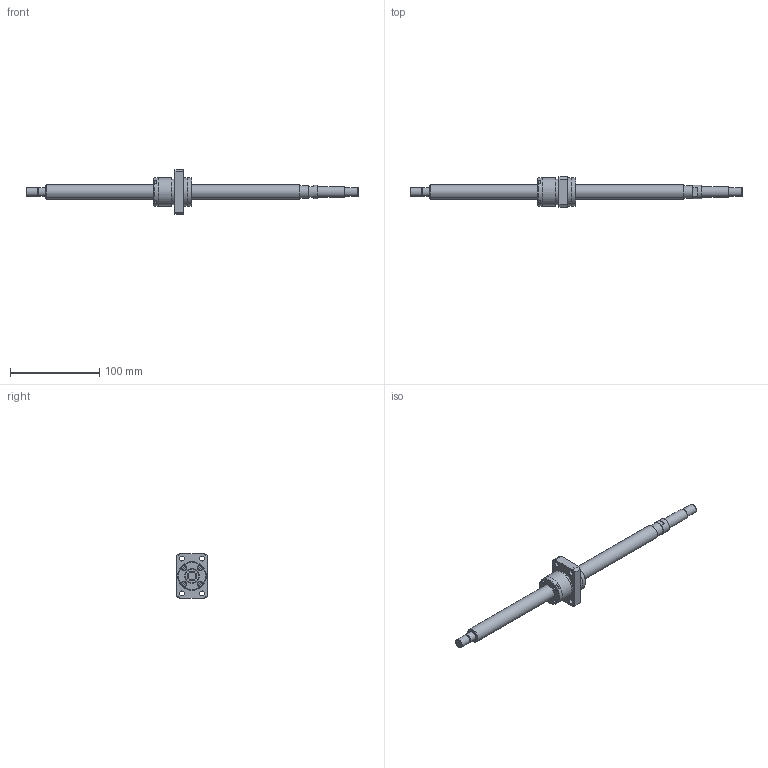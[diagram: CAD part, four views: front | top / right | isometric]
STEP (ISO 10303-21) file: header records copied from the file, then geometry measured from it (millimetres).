
FILE_DESCRIPTION(/* description */ ('STEP AP203'),/* implementation_level */ '2;1');
FILE_NAME(/* name */ 'BNK1616-3.6G0+371LC5Y(1630)',/* time_stamp */ '2024-07-09T09:29:14+02:00',/* author */ ('License CC BY-ND 4.0'),/* organization */ ('CADENAS'),/* preprocessor_version */ 'ST-DEVELOPER v19.3',/* originating_system */ 'PARTsolutions',/* authorisation */ ' ');
FILE_SCHEMA (('CONFIG_CONTROL_DESIGN'));
Length unit declared in the file: millimetre
Products named in the file (3): BNK1616-3.6G0+371LC5Y(1630); BNK 1616-3.6G0+371LC5Y Shaft; BNK 1616-3.6G0+371LC5Y0 Nut
Assembly tree (2 placements, depth 2):
  BNK1616-3.6G0+371LC5Y(1630)
    BNK 1616-3.6G0+371LC5Y Shaft
    BNK 1616-3.6G0+371LC5Y0 Nut
Bounding box: 371 x 34 x 50 mm (x, y, z)
Volume: 97919.4 mm3; surface area: 29264.1 mm2
Topology: 2 solids, 2 shells, 136 faces, 312 edges, 202 vertices
Faces by surface type: plane 75, cylinder 35, cone 20, torus 6
Full cylindrical faces by diameter (mm): 5.188 x1, 5.5 x8, 9.5 x4, 9.6 x1, 10 x3, 12 x1, 14 x1, 15 x1, 16 x2, 28.8 x1, 31.8 x2, 32 x2
Entity records: 3705 total; most frequent: CARTESIAN_POINT 676, DIRECTION 626, ORIENTED_EDGE 530, EDGE_CURVE 265, AXIS2_PLACEMENT_3D 247, FACE_BOUND 210, EDGE_LOOP 209, VERTEX_POINT 197
